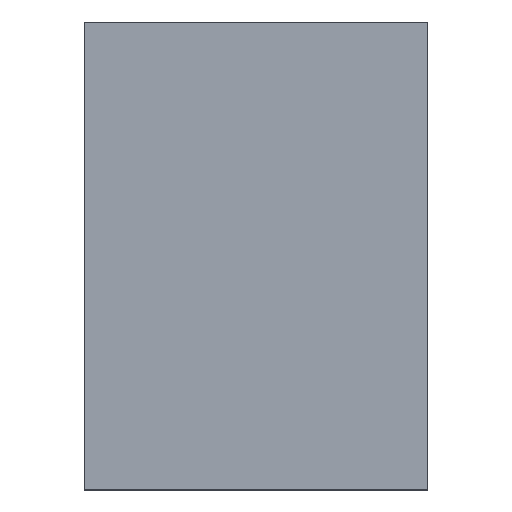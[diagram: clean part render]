
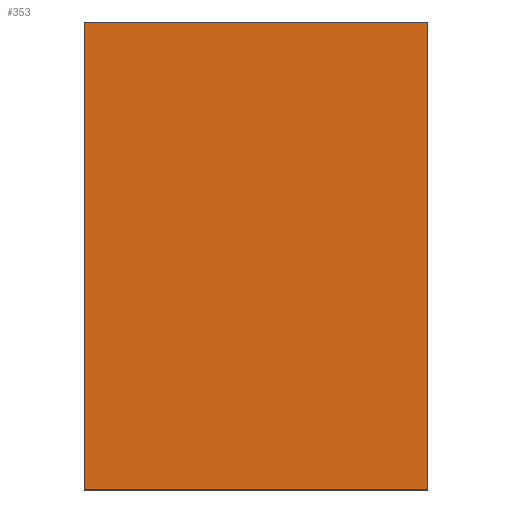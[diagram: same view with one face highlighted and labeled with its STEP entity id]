
A CAD part, top view. The second image highlights one B-rep face of the part: STEP entity #353.
In plain terms, the highlighted planar face has unit normal (0, 0, 1).
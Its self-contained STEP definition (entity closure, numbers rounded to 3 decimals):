
#39 = VERTEX_POINT('',#40);
#40 = CARTESIAN_POINT('',(-0.7,-2.5,7.6));
#47 = PLANE('',#48);
#48 = AXIS2_PLACEMENT_3D('',#49,#50,#51);
#49 = CARTESIAN_POINT('',(-0.7,-2.5,0.));
#50 = DIRECTION('',(0.,1.,0.));
#51 = DIRECTION('',(1.,0.,0.));
#59 = PLANE('',#60);
#60 = AXIS2_PLACEMENT_3D('',#61,#62,#63);
#61 = CARTESIAN_POINT('',(-0.7,6.2,0.));
#62 = DIRECTION('',(1.,0.,-0.));
#63 = DIRECTION('',(0.,-1.,0.));
#71 = EDGE_CURVE('',#39,#72,#74,.T.);
#72 = VERTEX_POINT('',#73);
#73 = CARTESIAN_POINT('',(5.7,-2.5,7.6));
#74 = SURFACE_CURVE('',#75,(#79,#86),.PCURVE_S1.);
#75 = LINE('',#76,#77);
#76 = CARTESIAN_POINT('',(-0.7,-2.5,7.6));
#77 = VECTOR('',#78,1.);
#78 = DIRECTION('',(1.,0.,0.));
#79 = PCURVE('',#47,#80);
#80 = DEFINITIONAL_REPRESENTATION('',(#81),#85);
#81 = LINE('',#82,#83);
#82 = CARTESIAN_POINT('',(0.,-7.6));
#83 = VECTOR('',#84,1.);
#84 = DIRECTION('',(1.,0.));
#85 = ( GEOMETRIC_REPRESENTATION_CONTEXT(2) 
PARAMETRIC_REPRESENTATION_CONTEXT() REPRESENTATION_CONTEXT('2D SPACE',''
  ) );
#86 = PCURVE('',#87,#92);
#87 = PLANE('',#88);
#88 = AXIS2_PLACEMENT_3D('',#89,#90,#91);
#89 = CARTESIAN_POINT('',(2.5,1.85,7.6));
#90 = DIRECTION('',(0.,0.,1.));
#91 = DIRECTION('',(1.,0.,0.));
#92 = DEFINITIONAL_REPRESENTATION('',(#93),#97);
#93 = LINE('',#94,#95);
#94 = CARTESIAN_POINT('',(-3.2,-4.35));
#95 = VECTOR('',#96,1.);
#96 = DIRECTION('',(1.,0.));
#97 = ( GEOMETRIC_REPRESENTATION_CONTEXT(2) 
PARAMETRIC_REPRESENTATION_CONTEXT() REPRESENTATION_CONTEXT('2D SPACE',''
  ) );
#115 = PLANE('',#116);
#116 = AXIS2_PLACEMENT_3D('',#117,#118,#119);
#117 = CARTESIAN_POINT('',(5.7,-2.5,0.));
#118 = DIRECTION('',(-1.,0.,0.));
#119 = DIRECTION('',(0.,1.,0.));
#157 = EDGE_CURVE('',#72,#158,#160,.T.);
#158 = VERTEX_POINT('',#159);
#159 = CARTESIAN_POINT('',(5.7,6.2,7.6));
#160 = SURFACE_CURVE('',#161,(#165,#172),.PCURVE_S1.);
#161 = LINE('',#162,#163);
#162 = CARTESIAN_POINT('',(5.7,-2.5,7.6));
#163 = VECTOR('',#164,1.);
#164 = DIRECTION('',(0.,1.,0.));
#165 = PCURVE('',#115,#166);
#166 = DEFINITIONAL_REPRESENTATION('',(#167),#171);
#167 = LINE('',#168,#169);
#168 = CARTESIAN_POINT('',(0.,-7.6));
#169 = VECTOR('',#170,1.);
#170 = DIRECTION('',(1.,0.));
#171 = ( GEOMETRIC_REPRESENTATION_CONTEXT(2) 
PARAMETRIC_REPRESENTATION_CONTEXT() REPRESENTATION_CONTEXT('2D SPACE',''
  ) );
#172 = PCURVE('',#87,#173);
#173 = DEFINITIONAL_REPRESENTATION('',(#174),#178);
#174 = LINE('',#175,#176);
#175 = CARTESIAN_POINT('',(3.2,-4.35));
#176 = VECTOR('',#177,1.);
#177 = DIRECTION('',(0.,1.));
#178 = ( GEOMETRIC_REPRESENTATION_CONTEXT(2) 
PARAMETRIC_REPRESENTATION_CONTEXT() REPRESENTATION_CONTEXT('2D SPACE',''
  ) );
#196 = PLANE('',#197);
#197 = AXIS2_PLACEMENT_3D('',#198,#199,#200);
#198 = CARTESIAN_POINT('',(5.7,6.2,0.));
#199 = DIRECTION('',(0.,-1.,0.));
#200 = DIRECTION('',(-1.,0.,0.));
#233 = EDGE_CURVE('',#158,#234,#236,.T.);
#234 = VERTEX_POINT('',#235);
#235 = CARTESIAN_POINT('',(-0.7,6.2,7.6));
#236 = SURFACE_CURVE('',#237,(#241,#248),.PCURVE_S1.);
#237 = LINE('',#238,#239);
#238 = CARTESIAN_POINT('',(5.7,6.2,7.6));
#239 = VECTOR('',#240,1.);
#240 = DIRECTION('',(-1.,0.,0.));
#241 = PCURVE('',#196,#242);
#242 = DEFINITIONAL_REPRESENTATION('',(#243),#247);
#243 = LINE('',#244,#245);
#244 = CARTESIAN_POINT('',(0.,-7.6));
#245 = VECTOR('',#246,1.);
#246 = DIRECTION('',(1.,0.));
#247 = ( GEOMETRIC_REPRESENTATION_CONTEXT(2) 
PARAMETRIC_REPRESENTATION_CONTEXT() REPRESENTATION_CONTEXT('2D SPACE',''
  ) );
#248 = PCURVE('',#87,#249);
#249 = DEFINITIONAL_REPRESENTATION('',(#250),#254);
#250 = LINE('',#251,#252);
#251 = CARTESIAN_POINT('',(3.2,4.35));
#252 = VECTOR('',#253,1.);
#253 = DIRECTION('',(-1.,0.));
#254 = ( GEOMETRIC_REPRESENTATION_CONTEXT(2) 
PARAMETRIC_REPRESENTATION_CONTEXT() REPRESENTATION_CONTEXT('2D SPACE',''
  ) );
#304 = EDGE_CURVE('',#234,#39,#305,.T.);
#305 = SURFACE_CURVE('',#306,(#310,#317),.PCURVE_S1.);
#306 = LINE('',#307,#308);
#307 = CARTESIAN_POINT('',(-0.7,6.2,7.6));
#308 = VECTOR('',#309,1.);
#309 = DIRECTION('',(0.,-1.,0.));
#310 = PCURVE('',#59,#311);
#311 = DEFINITIONAL_REPRESENTATION('',(#312),#316);
#312 = LINE('',#313,#314);
#313 = CARTESIAN_POINT('',(0.,-7.6));
#314 = VECTOR('',#315,1.);
#315 = DIRECTION('',(1.,0.));
#316 = ( GEOMETRIC_REPRESENTATION_CONTEXT(2) 
PARAMETRIC_REPRESENTATION_CONTEXT() REPRESENTATION_CONTEXT('2D SPACE',''
  ) );
#317 = PCURVE('',#87,#318);
#318 = DEFINITIONAL_REPRESENTATION('',(#319),#323);
#319 = LINE('',#320,#321);
#320 = CARTESIAN_POINT('',(-3.2,4.35));
#321 = VECTOR('',#322,1.);
#322 = DIRECTION('',(0.,-1.));
#323 = ( GEOMETRIC_REPRESENTATION_CONTEXT(2) 
PARAMETRIC_REPRESENTATION_CONTEXT() REPRESENTATION_CONTEXT('2D SPACE',''
  ) );
#353 = ADVANCED_FACE('',(#354),#87,.T.);
#354 = FACE_BOUND('',#355,.T.);
#355 = EDGE_LOOP('',(#356,#357,#358,#359));
#356 = ORIENTED_EDGE('',*,*,#71,.T.);
#357 = ORIENTED_EDGE('',*,*,#157,.T.);
#358 = ORIENTED_EDGE('',*,*,#233,.T.);
#359 = ORIENTED_EDGE('',*,*,#304,.T.);
